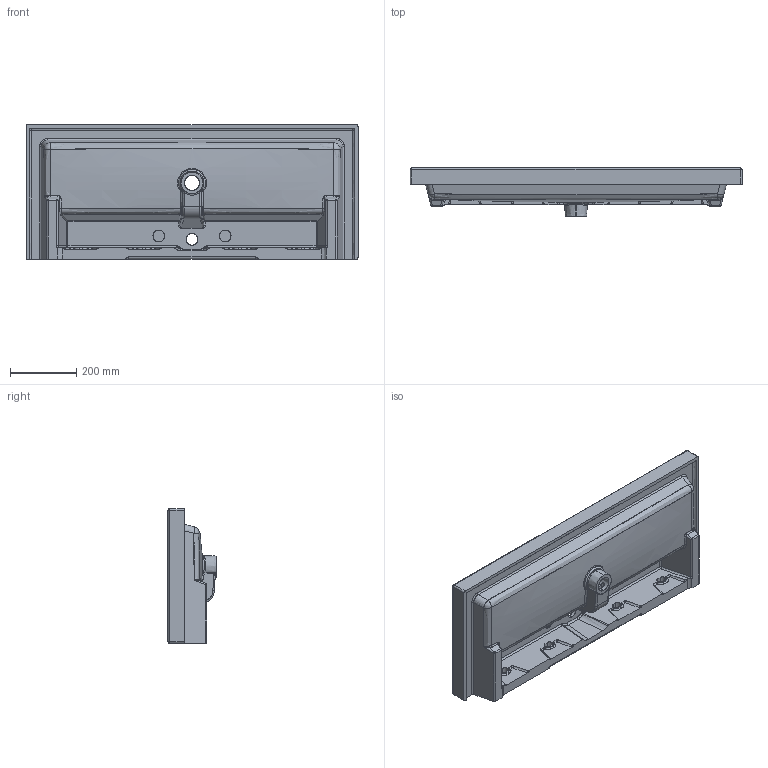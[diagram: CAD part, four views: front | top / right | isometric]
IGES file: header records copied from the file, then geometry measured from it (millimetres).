
Start section: SolidWorks IGES file using analytic representation for surfaces
Global section: file name: K:\lavabi tecla 3D IGS\g. SERIE 40 (4)\SERIE40 40X100 4003011.IGS; native system: SolidWorks 2013; preprocessor: SolidWorks 2013; author: UTENTE 1; date: 140521.170910; units: millimetre
Bounding box: 1000 x 145 x 405 mm (x, y, z)
Surface area: 1811901.1 mm2 (no closed solid volume)
Topology: 0 solids, 0 shells, 383 faces, 5271 edges, 5245 vertices
Faces by surface type: bspline 214, revolution 169
